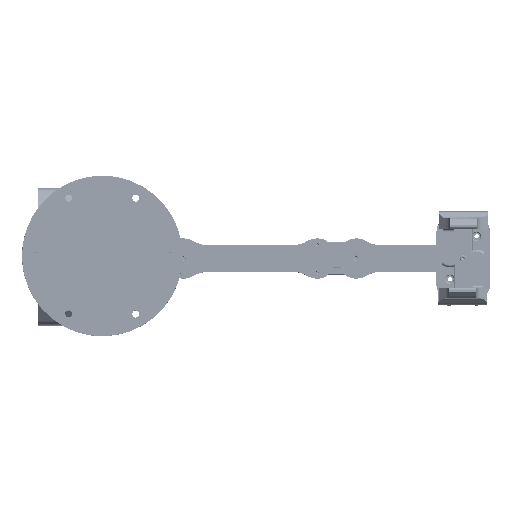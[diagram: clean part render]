
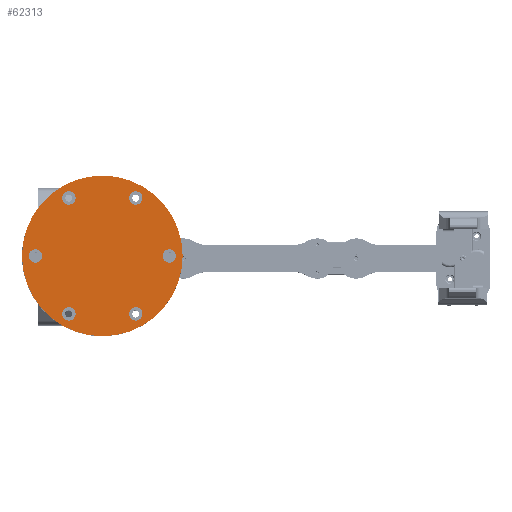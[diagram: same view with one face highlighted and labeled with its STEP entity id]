
A CAD part, top view. The second image highlights one B-rep face of the part: STEP entity #62313.
In plain terms, the highlighted planar face has unit normal (0, 0, 1).
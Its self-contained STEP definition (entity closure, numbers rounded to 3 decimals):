
#3271=FACE_BOUND('',#11260,.T.);
#3272=FACE_BOUND('',#11261,.T.);
#3273=FACE_BOUND('',#11262,.T.);
#3274=FACE_BOUND('',#11263,.T.);
#3275=FACE_BOUND('',#11264,.T.);
#3276=FACE_BOUND('',#11265,.T.);
#4599=PLANE('',#68602);
#7510=FACE_OUTER_BOUND('',#11259,.T.);
#11259=EDGE_LOOP('',(#52655));
#11260=EDGE_LOOP('',(#52656));
#11261=EDGE_LOOP('',(#52657));
#11262=EDGE_LOOP('',(#52658));
#11263=EDGE_LOOP('',(#52659));
#11264=EDGE_LOOP('',(#52660));
#11265=EDGE_LOOP('',(#52661));
#24828=CIRCLE('',#68561,5.);
#24832=CIRCLE('',#68568,5.);
#24836=CIRCLE('',#68575,5.);
#24840=CIRCLE('',#68582,5.);
#24844=CIRCLE('',#68589,5.);
#24848=CIRCLE('',#68596,5.);
#24850=CIRCLE('',#68600,60.);
#29451=VERTEX_POINT('',#118946);
#29455=VERTEX_POINT('',#118959);
#29459=VERTEX_POINT('',#118972);
#29463=VERTEX_POINT('',#118985);
#29467=VERTEX_POINT('',#118998);
#29471=VERTEX_POINT('',#119011);
#29473=VERTEX_POINT('',#119019);
#37567=EDGE_CURVE('',#29451,#29451,#24828,.T.);
#37573=EDGE_CURVE('',#29455,#29455,#24832,.T.);
#37579=EDGE_CURVE('',#29459,#29459,#24836,.T.);
#37585=EDGE_CURVE('',#29463,#29463,#24840,.T.);
#37591=EDGE_CURVE('',#29467,#29467,#24844,.T.);
#37597=EDGE_CURVE('',#29471,#29471,#24848,.T.);
#37601=EDGE_CURVE('',#29473,#29473,#24850,.T.);
#52655=ORIENTED_EDGE('',*,*,#37601,.T.);
#52656=ORIENTED_EDGE('',*,*,#37567,.T.);
#52657=ORIENTED_EDGE('',*,*,#37573,.T.);
#52658=ORIENTED_EDGE('',*,*,#37579,.T.);
#52659=ORIENTED_EDGE('',*,*,#37585,.T.);
#52660=ORIENTED_EDGE('',*,*,#37591,.T.);
#52661=ORIENTED_EDGE('',*,*,#37597,.T.);
#62313=ADVANCED_FACE('',(#7510,#3271,#3272,#3273,#3274,#3275,#3276),#4599,
 .T.);
#68561=AXIS2_PLACEMENT_3D('',#118947,#82034,#82035);
#68568=AXIS2_PLACEMENT_3D('',#118960,#82050,#82051);
#68575=AXIS2_PLACEMENT_3D('',#118973,#82066,#82067);
#68582=AXIS2_PLACEMENT_3D('',#118986,#82082,#82083);
#68589=AXIS2_PLACEMENT_3D('',#118999,#82098,#82099);
#68596=AXIS2_PLACEMENT_3D('',#119012,#82114,#82115);
#68600=AXIS2_PLACEMENT_3D('',#119020,#82124,#82125);
#68602=AXIS2_PLACEMENT_3D('',#119024,#82129,#82130);
#82034=DIRECTION('center_axis',(0.,0.,-1.));
#82035=DIRECTION('ref_axis',(1.,0.,0.));
#82050=DIRECTION('center_axis',(0.,0.,-1.));
#82051=DIRECTION('ref_axis',(1.,0.,0.));
#82066=DIRECTION('center_axis',(0.,0.,-1.));
#82067=DIRECTION('ref_axis',(1.,0.,0.));
#82082=DIRECTION('center_axis',(0.,0.,-1.));
#82083=DIRECTION('ref_axis',(1.,0.,0.));
#82098=DIRECTION('center_axis',(0.,0.,-1.));
#82099=DIRECTION('ref_axis',(1.,0.,0.));
#82114=DIRECTION('center_axis',(0.,0.,-1.));
#82115=DIRECTION('ref_axis',(1.,0.,0.));
#82124=DIRECTION('center_axis',(0.,0.,1.));
#82125=DIRECTION('ref_axis',(1.,0.,0.));
#82129=DIRECTION('center_axis',(0.,0.,1.));
#82130=DIRECTION('ref_axis',(1.,0.,0.));
#118946=CARTESIAN_POINT('',(-55.,0.,30.));
#118947=CARTESIAN_POINT('Origin',(-50.,0.,
30.));
#118959=CARTESIAN_POINT('',(-30.,43.301,30.));
#118960=CARTESIAN_POINT('Origin',(-25.,43.301,30.));
#118972=CARTESIAN_POINT('',(20.,43.301,30.));
#118973=CARTESIAN_POINT('Origin',(25.,43.301,30.));
#118985=CARTESIAN_POINT('',(45.,0.,30.));
#118986=CARTESIAN_POINT('Origin',(50.,0.,30.));
#118998=CARTESIAN_POINT('',(-30.,-43.301,30.));
#118999=CARTESIAN_POINT('Origin',(-25.,-43.301,30.));
#119011=CARTESIAN_POINT('',(20.,-43.301,30.));
#119012=CARTESIAN_POINT('Origin',(25.,-43.301,30.));
#119019=CARTESIAN_POINT('',(-60.,0.,30.));
#119020=CARTESIAN_POINT('Origin',(0.,0.,
30.));
#119024=CARTESIAN_POINT('Origin',(0.,0.,
30.));
